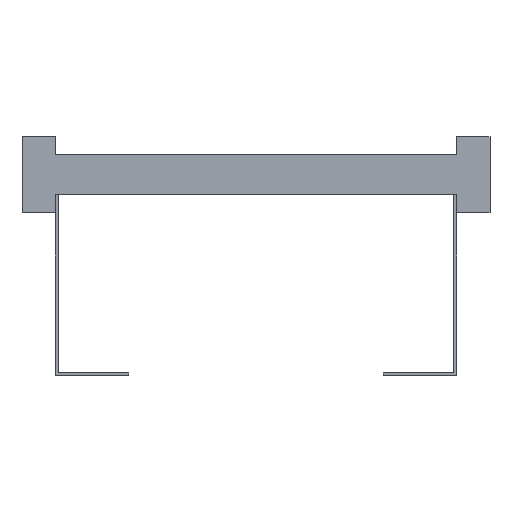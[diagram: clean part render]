
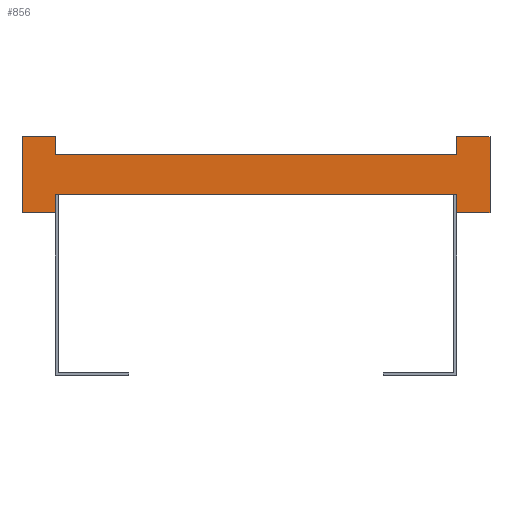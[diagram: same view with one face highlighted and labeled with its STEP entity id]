
A CAD part, front view. The second image highlights one B-rep face of the part: STEP entity #856.
In plain terms, the highlighted planar face has unit normal (0, -1, 0).
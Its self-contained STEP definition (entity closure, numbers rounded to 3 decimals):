
#1=DIRECTION('',(0.,0.,1.));
#2=VECTOR('',#1,13.5);
#3=CARTESIAN_POINT('',(150.,0.,-28.5));
#4=LINE('',#3,#2);
#5=DIRECTION('',(0.,0.,-1.));
#6=VECTOR('',#5,13.5);
#7=CARTESIAN_POINT('',(-150.,0.,-15.));
#8=LINE('',#7,#6);
#9=DIRECTION('',(-1.,0.,0.));
#10=VECTOR('',#9,25.);
#11=CARTESIAN_POINT('',(-150.,0.,-28.5));
#12=LINE('',#11,#10);
#13=DIRECTION('',(0.,0.,1.));
#14=VECTOR('',#13,57.);
#15=CARTESIAN_POINT('',(-175.,0.,-28.5));
#16=LINE('',#15,#14);
#17=DIRECTION('',(1.,0.,0.));
#18=VECTOR('',#17,25.);
#19=CARTESIAN_POINT('',(-175.,0.,28.5));
#20=LINE('',#19,#18);
#21=DIRECTION('',(0.,0.,-1.));
#22=VECTOR('',#21,13.5);
#23=CARTESIAN_POINT('',(-150.,0.,28.5));
#24=LINE('',#23,#22);
#25=DIRECTION('',(0.,0.,1.));
#26=VECTOR('',#25,13.5);
#27=CARTESIAN_POINT('',(150.,0.,15.));
#28=LINE('',#27,#26);
#29=DIRECTION('',(1.,0.,0.));
#30=VECTOR('',#29,25.);
#31=CARTESIAN_POINT('',(150.,0.,28.5));
#32=LINE('',#31,#30);
#33=DIRECTION('',(0.,0.,-1.));
#34=VECTOR('',#33,57.);
#35=CARTESIAN_POINT('',(175.,0.,28.5));
#36=LINE('',#35,#34);
#37=DIRECTION('',(-1.,0.,0.));
#38=VECTOR('',#37,25.);
#39=CARTESIAN_POINT('',(175.,0.,-28.5));
#40=LINE('',#39,#38);
#609=DIRECTION('',(1.,0.,0.));
#610=VECTOR('',#609,300.);
#611=CARTESIAN_POINT('',(-150.,0.,-15.));
#612=LINE('',#611,#610);
#621=DIRECTION('',(1.,0.,0.));
#622=VECTOR('',#621,300.);
#623=CARTESIAN_POINT('',(-150.,0.,15.));
#624=LINE('',#623,#622);
#625=CARTESIAN_POINT('',(-175.,0.,28.5));
#626=CARTESIAN_POINT('',(-150.,0.,28.5));
#627=VERTEX_POINT('',#625);
#628=VERTEX_POINT('',#626);
#629=CARTESIAN_POINT('',(-150.,0.,-28.5));
#630=CARTESIAN_POINT('',(-175.,0.,-28.5));
#631=VERTEX_POINT('',#629);
#632=VERTEX_POINT('',#630);
#633=CARTESIAN_POINT('',(175.,0.,28.5));
#634=CARTESIAN_POINT('',(175.,0.,-28.5));
#635=VERTEX_POINT('',#633);
#636=VERTEX_POINT('',#634);
#637=CARTESIAN_POINT('',(150.,0.,-28.5));
#638=VERTEX_POINT('',#637);
#639=CARTESIAN_POINT('',(150.,0.,28.5));
#640=VERTEX_POINT('',#639);
#657=CARTESIAN_POINT('',(-150.,0.,-15.));
#659=VERTEX_POINT('',#657);
#661=CARTESIAN_POINT('',(-150.,0.,15.));
#663=VERTEX_POINT('',#661);
#665=CARTESIAN_POINT('',(150.,0.,-15.));
#667=VERTEX_POINT('',#665);
#669=CARTESIAN_POINT('',(150.,0.,15.));
#671=VERTEX_POINT('',#669);
#825=CARTESIAN_POINT('',(0.,0.,0.));
#826=DIRECTION('',(0.,1.,0.));
#827=DIRECTION('',(1.,0.,0.));
#828=AXIS2_PLACEMENT_3D('',#825,#826,#827);
#829=PLANE('',#828);
#831=ORIENTED_EDGE('',*,*,#830,.T.);
#833=ORIENTED_EDGE('',*,*,#832,.F.);
#835=ORIENTED_EDGE('',*,*,#834,.T.);
#837=ORIENTED_EDGE('',*,*,#836,.T.);
#839=ORIENTED_EDGE('',*,*,#838,.T.);
#841=ORIENTED_EDGE('',*,*,#840,.T.);
#843=ORIENTED_EDGE('',*,*,#842,.T.);
#845=ORIENTED_EDGE('',*,*,#844,.T.);
#847=ORIENTED_EDGE('',*,*,#846,.T.);
#849=ORIENTED_EDGE('',*,*,#848,.T.);
#851=ORIENTED_EDGE('',*,*,#850,.T.);
#853=ORIENTED_EDGE('',*,*,#852,.T.);
#854=EDGE_LOOP('',(#831,#833,#835,#837,#839,#841,#843,#845,#847,#849,#851,
#853));
#855=FACE_OUTER_BOUND('',#854,.F.);
#856=ADVANCED_FACE('',(#855),#829,.F.);
#830=EDGE_CURVE('',#638,#667,#4,.T.);
#832=EDGE_CURVE('',#659,#667,#612,.T.);
#834=EDGE_CURVE('',#659,#631,#8,.T.);
#836=EDGE_CURVE('',#631,#632,#12,.T.);
#838=EDGE_CURVE('',#632,#627,#16,.T.);
#840=EDGE_CURVE('',#627,#628,#20,.T.);
#842=EDGE_CURVE('',#628,#663,#24,.T.);
#844=EDGE_CURVE('',#663,#671,#624,.T.);
#846=EDGE_CURVE('',#671,#640,#28,.T.);
#848=EDGE_CURVE('',#640,#635,#32,.T.);
#850=EDGE_CURVE('',#635,#636,#36,.T.);
#852=EDGE_CURVE('',#636,#638,#40,.T.);
